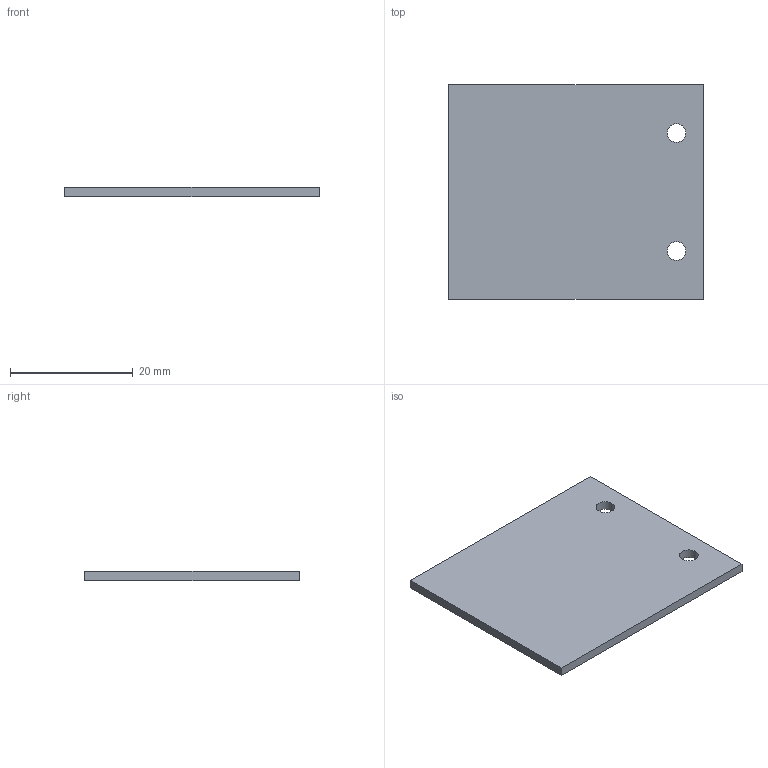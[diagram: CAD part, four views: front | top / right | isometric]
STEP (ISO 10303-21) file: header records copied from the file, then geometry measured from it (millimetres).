
FILE_DESCRIPTION(('HOOPS Exchange Step'),'2;1');
FILE_NAME('C:/Users/a0506362/Desktop/ansys/AOP/final_3d_step files/flat radome ABS.step','2025-02-18T14:55:42+05:30',('a0506362'),('Unknown organisation'),'HOOPS Exchange 2024.0','HOOPS Exchange','Unknown authorisation');
FILE_SCHEMA( ('AP242_MANAGED_MODEL_BASED_3D_ENGINEERING_MIM_LF {1 0 10303 442 1 1 4 }') );
Length unit declared in the file: millimetre
Products named in the file (1): Box1
Bounding box: 41.5 x 35 x 1.49 mm (x, y, z)
Volume: 2142.7 mm3; surface area: 3132.5 mm2
Topology: 1 solids, 1 shells, 8 faces, 18 edges, 12 vertices
Faces by surface type: plane 6, cylinder 2
Full cylindrical faces by diameter (mm): 3.03 x2
Entity records: 294 total; most frequent: DIRECTION 42, CARTESIAN_POINT 40, ORIENTED_EDGE 36, EDGE_CURVE 18, AXIS2_PLACEMENT_3D 14, VECTOR 14, LINE 14, VERTEX_POINT 12
